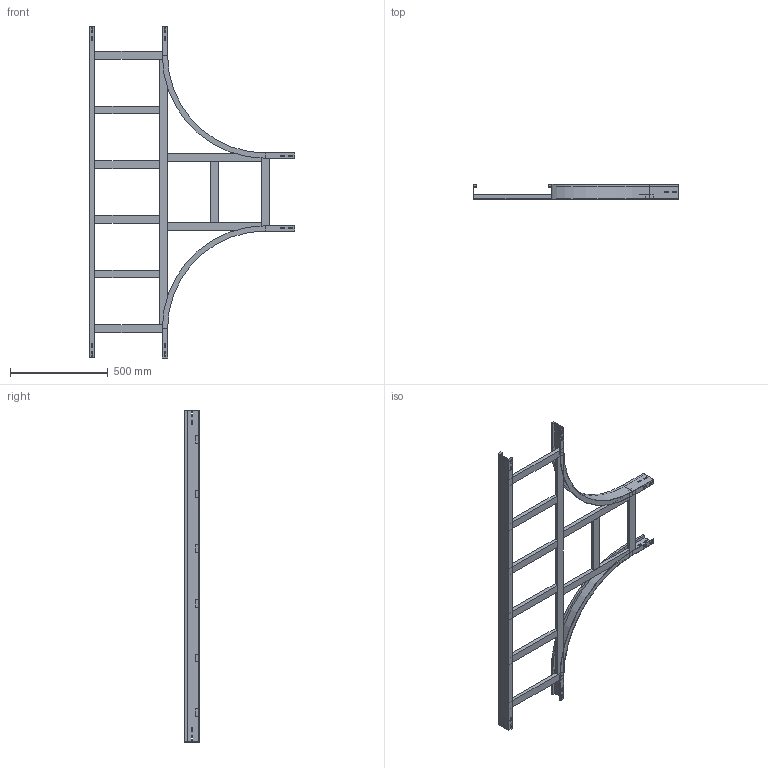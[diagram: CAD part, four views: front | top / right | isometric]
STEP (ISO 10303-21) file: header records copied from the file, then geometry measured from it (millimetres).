
FILE_DESCRIPTION (( 'STEP AP214' ), '1' );
FILE_NAME ('15B5C400.step', '2025-02-21T15:52:35', ( '' ), ( '' ), 'SwSTEP 2.0', 'SolidWorks 2023', '' );
FILE_SCHEMA (( 'AUTOMOTIVE_DESIGN' ));
Length unit declared in the file: millimetre
Products named in the file (8): LONGH.RETT_H75_R500+400; TRAVERSINO_VERT_R500; LONGH.INTERNO 90°_H75_R500; TRAVERSINO_COPPIA_400; TRAVERSINO_INTERMEDIO_R500+400; TRAVERSINO_400; 15B5C400; TRAVERSINO_LONG._R500+400
Assembly tree (14 placements, depth 2):
  15B5C400
    LONGH.INTERNO 90°_H75_R500  x2
    LONGH.RETT_H75_R500+400
    TRAVERSINO_400  x3
    TRAVERSINO_LONG._R500+400
    TRAVERSINO_INTERMEDIO_R500+400  x4
    TRAVERSINO_VERT_R500  x2
    TRAVERSINO_COPPIA_400
Bounding box: 1050 x 75 x 1700 mm (x, y, z)
Volume: 5769620.9 mm3; surface area: 1568607 mm2
Topology: 14 solids, 14 shells, 224 faces, 556 edges, 360 vertices
Faces by surface type: plane 216, cylinder 8
Entity records: 4209 total; most frequent: CARTESIAN_POINT 695, ORIENTED_EDGE 664, DIRECTION 634, EDGE_CURVE 332, LINE 324, VECTOR 324, VERTEX_POINT 216, EDGE_LOOP 162
